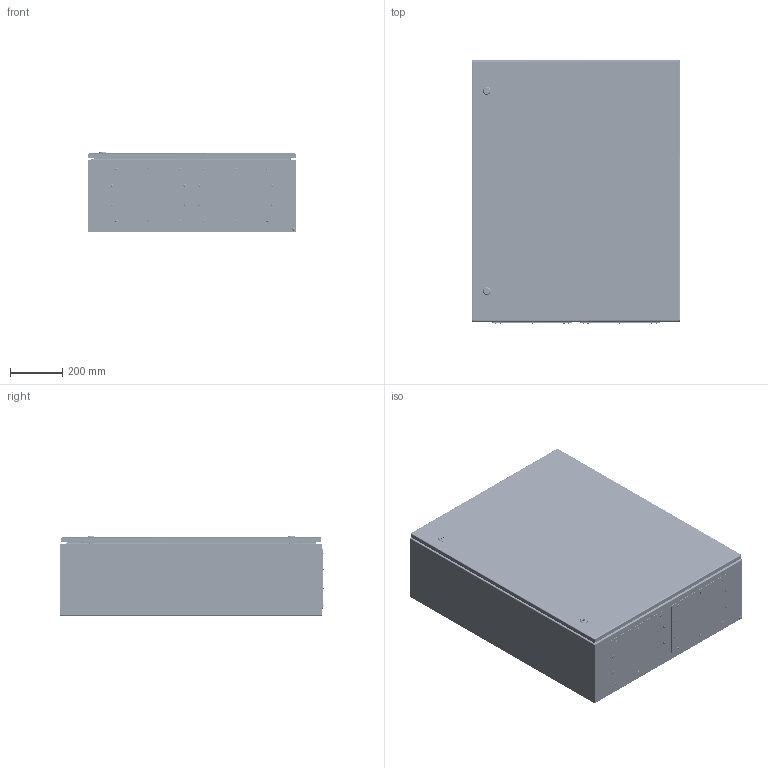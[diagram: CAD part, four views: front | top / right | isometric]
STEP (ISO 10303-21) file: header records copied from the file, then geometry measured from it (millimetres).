
FILE_DESCRIPTION (( 'STEP AP214' ), '1' );
FILE_NAME ('CCS 100.80.30 仃圄 觐祜嚓蝽.STEP', '2025-09-09T19:46:50', ( '' ), ( '' ), 'SwSTEP 2.0', 'SolidWorks 2019', '' );
FILE_SCHEMA (( 'AUTOMOTIVE_DESIGN' ));
Length unit declared in the file: millimetre
Products named in the file (30): Ïåòëÿ ïðèâàðíàÿ ÷àñòü; Essentra_d6,3_1287228; Çàìîê LC 5DB.S_‡ ¬®ª LC 5DB.S_45mm; MPC X.Y Ïàíåëü ìîíòàæíàÿ_MPC 100.80; ßçû÷îê çàìêà LC 5DB.S; hex flange nut_din_Hexagon Flange Nut DIN 6923 - M8 - N; PKV Y.22 相礤朦 赅徨朦眍泐 忖钿郷PKV 40.22; CCS X.Y.02.000蚜 拟屦黖CCS 100.80; Âèíò ðåçüáîâûäàâëèâàþùèé ñ ïîëóïîòàéíîé ãîëîâêîé Ì5õ12; CCS Y.Z.01.003 Êîðïóñ_ïàíåëü íèæíÿÿ_CCS 80.30; Essentra_d9.3_055009300003; plain washer grade a_din_Washer DIN 125 - A 5.3; CCS X.Y.30(40).01.001 Êîðïóñ_ïàíåëü ñðåäíÿÿ_CCS 100.80.30; Ïåòëÿ KIT_Ìîäóëü_êîðïóñíàÿ ÷àñòü; CCS 100.80.30 仃圄 觐祜嚓蝽; Ãàéêà Ì8 DIN 934; Øïèëüêà Ì8õ25; CCS Y.Z.01.002 Êîðïóñ_ïàíåëü âåðõíÿÿ_CCS 80.30; pan head cross recess screw_din_DIN EN ISO 7045 - M5 x 6 - Z - 6N; Øïèëüêà çàçåìëåíèÿ Ì6õ17,5_˜¯¨«ìª  § §¥¬«¥­¨ï Œ6å17,5; Ïåòëÿ KIT_Ìîäóëü_êîðïóñíàÿ ÷àñòü â ñáîðå; ﾇ瑟鶴 LC 5DB.S; KIT_Øòèôò_ô5_Ìîäóëü; CCS X.Y.30(40).01.000ÑÁ Êîðïóñ øêàôà ñâàðíîé_CCS 100.80.30; CCS X.002 扰鍙欙樥燲CCS 100.002; CCS X.Y.02.001 拟屦黖CCS 100.80; KIT_Çàæèìíîå êîëüöî_ïîëèîêñèìåòèëåí_ô5_EMKA 1031-U16
Assembly tree (85 placements, depth 3):
  CCS 100.80.30 仃圄 觐祜嚓蝽
    CCS X.Y.30(40).01.000ÑÁ Êîðïóñ øêàôà ñâàðíîé_CCS 100.80.30
      CCS X.Y.30(40).01.001 Êîðïóñ_ïàíåëü ñðåäíÿÿ_CCS 100.80.30
      CCS Y.Z.01.003 Êîðïóñ_ïàíåëü íèæíÿÿ_CCS 80.30
      CCS Y.Z.01.002 Êîðïóñ_ïàíåëü âåðõíÿÿ_CCS 80.30
      Øïèëüêà çàçåìëåíèÿ Ì6õ17,5_˜¯¨«ìª  § §¥¬«¥­¨ï Œ6å17,5  x4
      Øïèëüêà Ì8õ25  x6
    Ïåòëÿ KIT_Ìîäóëü_êîðïóñíàÿ ÷àñòü â ñáîðå
      Ïåòëÿ KIT_Ìîäóëü_êîðïóñíàÿ ÷àñòü
      KIT_Øòèôò_ô5_Ìîäóëü
      KIT_Çàæèìíîå êîëüöî_ïîëèîêñèìåòèëåí_ô5_EMKA 1031-U16
    Ïåòëÿ KIT_Ìîäóëü_êîðïóñíàÿ ÷àñòü â ñáîðå
      Ïåòëÿ KIT_Ìîäóëü_êîðïóñíàÿ ÷àñòü
      KIT_Øòèôò_ô5_Ìîäóëü
      KIT_Çàæèìíîå êîëüöî_ïîëèîêñèìåòèëåí_ô5_EMKA 1031-U16
    Ïåòëÿ KIT_Ìîäóëü_êîðïóñíàÿ ÷àñòü â ñáîðå
      Ïåòëÿ KIT_Ìîäóëü_êîðïóñíàÿ ÷àñòü
      KIT_Øòèôò_ô5_Ìîäóëü
      KIT_Çàæèìíîå êîëüöî_ïîëèîêñèìåòèëåí_ô5_EMKA 1031-U16
    CCS X.Y.02.000蚜 拟屦黖CCS 100.80
      CCS X.Y.02.001 拟屦黖CCS 100.80
      Øïèëüêà çàçåìëåíèÿ Ì6õ17,5_˜¯¨«ìª  § §¥¬«¥­¨ï Œ6å17,5
      CCS X.002 扰鍙欙樥燲CCS 100.002  x2
      Ïåòëÿ ïðèâàðíàÿ ÷àñòü  x3
    MPC X.Y Ïàíåëü ìîíòàæíàÿ_MPC 100.80
    pan head cross recess screw_din_DIN EN ISO 7045 - M5 x 6 - Z - 6N  x3
    plain washer grade a_din_Washer DIN 125 - A 5.3  x3
    Ãàéêà Ì8 DIN 934  x6
    hex flange nut_din_Hexagon Flange Nut DIN 6923 - M8 - N  x6
    Essentra_d9.3_055009300003
    Essentra_d6,3_1287228  x3
    Çàìîê LC 5DB.S_‡ ¬®ª LC 5DB.S_45mm
      ﾇ瑟鶴 LC 5DB.S
      ßçû÷îê çàìêà LC 5DB.S
    Çàìîê LC 5DB.S_‡ ¬®ª LC 5DB.S_45mm
      ﾇ瑟鶴 LC 5DB.S
      ßçû÷îê çàìêà LC 5DB.S
    PKV Y.22 相礤朦 赅徨朦眍泐 忖钿郷PKV 40.22  x2
    Âèíò ðåçüáîâûäàâëèâàþùèé ñ ïîëóïîòàéíîé ãîëîâêîé Ì5õ12  x20
Bounding box: 800 x 1007.22 x 305 mm (x, y, z)
Volume: 5790466.4 mm3; surface area: 7518846.1 mm2
Topology: 83 solids, 83 shells, 3490 faces, 8806 edges, 5496 vertices
Faces by surface type: plane 1352, cylinder 1299, cone 402, bspline 203, torus 169, sphere 65
Entity records: 54527 total; most frequent: CARTESIAN_POINT 20405, DIRECTION 6768, ORIENTED_EDGE 6720, EDGE_CURVE 3360, AXIS2_PLACEMENT_3D 2539, VERTEX_POINT 2108, VECTOR 1690, LINE 1690
